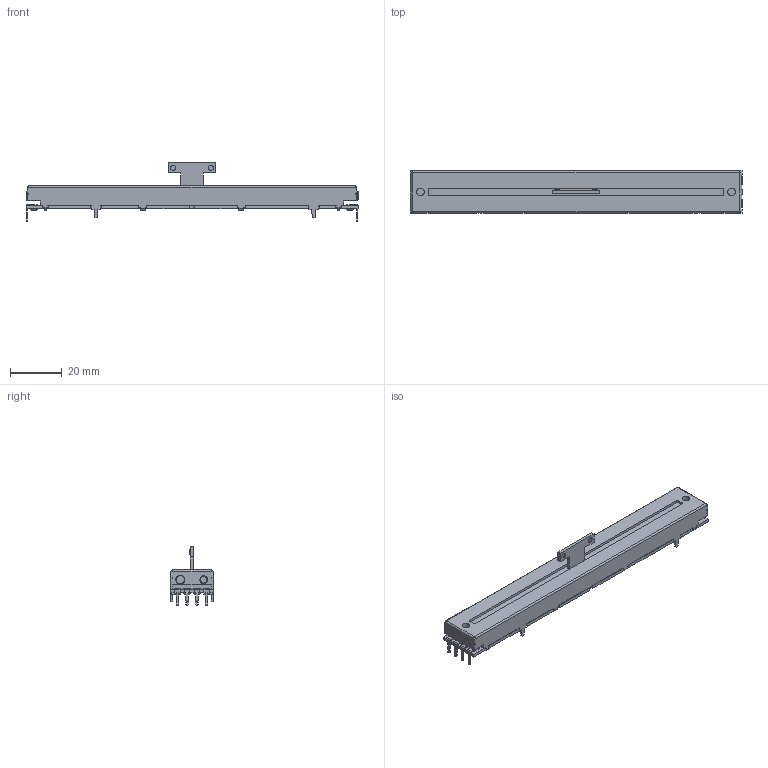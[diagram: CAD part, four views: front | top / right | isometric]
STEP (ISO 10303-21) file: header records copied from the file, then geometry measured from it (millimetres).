
FILE_DESCRIPTION(('FreeCAD Model'),'2;1');
FILE_NAME('Open CASCADE Shape Model','2023-03-16T14:19:29',(''),(''), 'Open CASCADE STEP processor 7.6','FreeCAD','Unknown');
FILE_SCHEMA(('AUTOMOTIVE_DESIGN { 1 0 10303 214 1 1 1 1 }'));
Length unit declared in the file: millimetre
Products named in the file (1): Fusion031010
Bounding box: 128 x 16.5 x 22.7 mm (x, y, z)
Volume: 17702.6 mm3; surface area: 15292.8 mm2
Topology: 5 solids, 5 shells, 860 faces, 2206 edges, 1352 vertices
Faces by surface type: plane 656, cylinder 194, cone 10
Full cylindrical faces by diameter (mm): 0.5 x18, 1.5 x2, 2 x4, 3 x4, 3.5 x2
Entity records: 57784 total; most frequent: CARTESIAN_POINT 11678, DIRECTION 6723, ORIENTED_EDGE 4756, PCURVE 4412, DEFINITIONAL_REPRESENTATION 4412, LINE 4004, VECTOR 4004, EDGE_CURVE 2206
